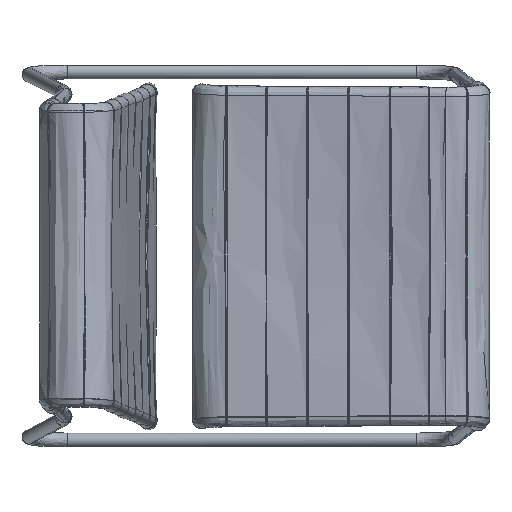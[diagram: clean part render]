
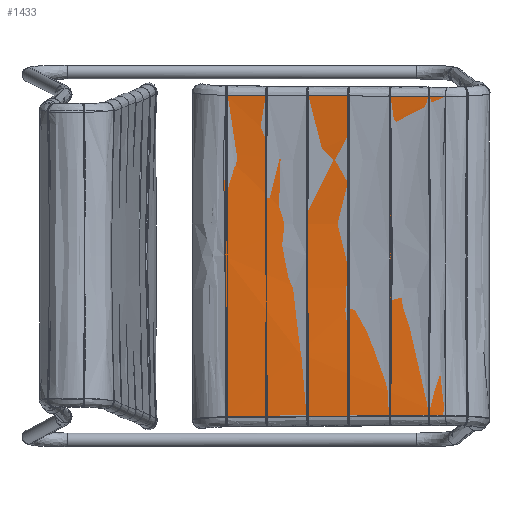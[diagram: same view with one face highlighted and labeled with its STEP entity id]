
A CAD part, top view. The second image highlights one B-rep face of the part: STEP entity #1433.
In plain terms, the highlighted free-form (B-spline) face has degree [5, 3] with [6, 4] control points.
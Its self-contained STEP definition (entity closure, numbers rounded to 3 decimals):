
#1433=ADVANCED_FACE($,(#1822),#6359,.T.);
#1822=FACE_OUTER_BOUND($,#2211,.T.);
#2211=EDGE_LOOP($,(#2721,#2722,#2723,#2724));
#2721=ORIENTED_EDGE($,*,*,#3978,.T.);
#2722=ORIENTED_EDGE($,*,*,#3979,.T.);
#2723=ORIENTED_EDGE($,*,*,#3980,.T.);
#2724=ORIENTED_EDGE($,*,*,#3981,.T.);
#3978=EDGE_CURVE($,#5235,#5236,#6658,.T.);
#3979=EDGE_CURVE($,#5236,#5237,#6659,.T.);
#3980=EDGE_CURVE($,#5237,#5238,#6660,.T.);
#3981=EDGE_CURVE($,#5238,#5235,#6661,.T.);
#5235=VERTEX_POINT($,#21531);
#5236=VERTEX_POINT($,#21532);
#5237=VERTEX_POINT($,#21533);
#5238=VERTEX_POINT($,#21534);
#6359=B_SPLINE_SURFACE_WITH_KNOTS($,5,3,((#21507,#21508,#21509,#21510),(#21511,
#21512,#21513,#21514),(#21515,#21516,#21517,#21518),(#21519,#21520,#21521,
#21522),(#21523,#21524,#21525,#21526),(#21527,#21528,#21529,#21530)),.UNSPECIFIED.,
.F.,.F.,.F.,(6,6),(4,4),(0.,1.),(0.,1.),.UNSPECIFIED.);
#6658=B_SPLINE_CURVE_WITH_KNOTS($,5,(#21487,#21488,#21489,#21490,#21491,
#21492),.UNSPECIFIED.,.F.,.F.,(6,6),(0.,1.),.UNSPECIFIED.);
#6659=B_SPLINE_CURVE_WITH_KNOTS($,3,(#21493,#21494,#21495,#21496),.UNSPECIFIED.,
.F.,.F.,(4,4),(0.,1.),.UNSPECIFIED.);
#6660=B_SPLINE_CURVE_WITH_KNOTS($,5,(#21497,#21498,#21499,#21500,#21501,
#21502),.UNSPECIFIED.,.F.,.F.,(6,6),(-1.,0.),.UNSPECIFIED.);
#6661=B_SPLINE_CURVE_WITH_KNOTS($,3,(#21503,#21504,#21505,#21506),.UNSPECIFIED.,
.F.,.F.,(4,4),(-1.,0.),.UNSPECIFIED.);
#21487=CARTESIAN_POINT($,(313.825,-207.117,464.191));
#21488=CARTESIAN_POINT($,(313.825,-125.241,464.191));
#21489=CARTESIAN_POINT($,(313.825,-43.365,447.869));
#21490=CARTESIAN_POINT($,(313.825,38.511,447.869));
#21491=CARTESIAN_POINT($,(306.533,120.961,457.822));
#21492=CARTESIAN_POINT($,(313.825,202.263,464.191));
#21493=CARTESIAN_POINT($,(313.825,202.263,464.191));
#21494=CARTESIAN_POINT($,(220.092,202.839,456.011));
#21495=CARTESIAN_POINT($,(126.36,203.415,447.83));
#21496=CARTESIAN_POINT($,(32.628,203.991,439.65));
#21497=CARTESIAN_POINT($,(32.628,203.991,439.65));
#21498=CARTESIAN_POINT($,(25.241,122.003,433.266));
#21499=CARTESIAN_POINT($,(32.628,38.857,438.406));
#21500=CARTESIAN_POINT($,(32.628,-43.711,438.406));
#21501=CARTESIAN_POINT($,(32.628,-126.278,439.65));
#21502=CARTESIAN_POINT($,(32.628,-208.845,439.65));
#21503=CARTESIAN_POINT($,(32.628,-208.845,439.65));
#21504=CARTESIAN_POINT($,(126.36,-208.269,447.83));
#21505=CARTESIAN_POINT($,(220.092,-207.693,456.011));
#21506=CARTESIAN_POINT($,(313.825,-207.117,464.191));
#21507=CARTESIAN_POINT($,(313.825,-207.117,464.191));
#21508=CARTESIAN_POINT($,(220.092,-207.693,456.011));
#21509=CARTESIAN_POINT($,(126.36,-208.269,447.83));
#21510=CARTESIAN_POINT($,(32.628,-208.845,439.65));
#21511=CARTESIAN_POINT($,(313.825,-125.241,464.191));
#21512=CARTESIAN_POINT($,(220.092,-125.586,456.011));
#21513=CARTESIAN_POINT($,(126.36,-125.932,447.83));
#21514=CARTESIAN_POINT($,(32.628,-126.278,439.65));
#21515=CARTESIAN_POINT($,(313.825,-43.365,447.869));
#21516=CARTESIAN_POINT($,(220.092,-43.48,441.944));
#21517=CARTESIAN_POINT($,(126.36,-43.595,436.018));
#21518=CARTESIAN_POINT($,(32.628,-43.711,438.406));
#21519=CARTESIAN_POINT($,(313.825,38.511,447.869));
#21520=CARTESIAN_POINT($,(220.092,38.626,441.944));
#21521=CARTESIAN_POINT($,(126.36,38.741,436.018));
#21522=CARTESIAN_POINT($,(32.628,38.857,438.406));
#21523=CARTESIAN_POINT($,(306.533,120.961,457.822));
#21524=CARTESIAN_POINT($,(212.769,121.309,449.637));
#21525=CARTESIAN_POINT($,(119.005,121.656,441.451));
#21526=CARTESIAN_POINT($,(25.241,122.003,433.266));
#21527=CARTESIAN_POINT($,(313.825,202.263,464.191));
#21528=CARTESIAN_POINT($,(220.092,202.839,456.011));
#21529=CARTESIAN_POINT($,(126.36,203.415,447.83));
#21530=CARTESIAN_POINT($,(32.628,203.991,439.65));
#21531=CARTESIAN_POINT($,(313.825,-207.117,464.191));
#21532=CARTESIAN_POINT($,(313.825,202.263,464.191));
#21533=CARTESIAN_POINT($,(32.628,203.991,439.65));
#21534=CARTESIAN_POINT($,(32.628,-208.845,439.65));
